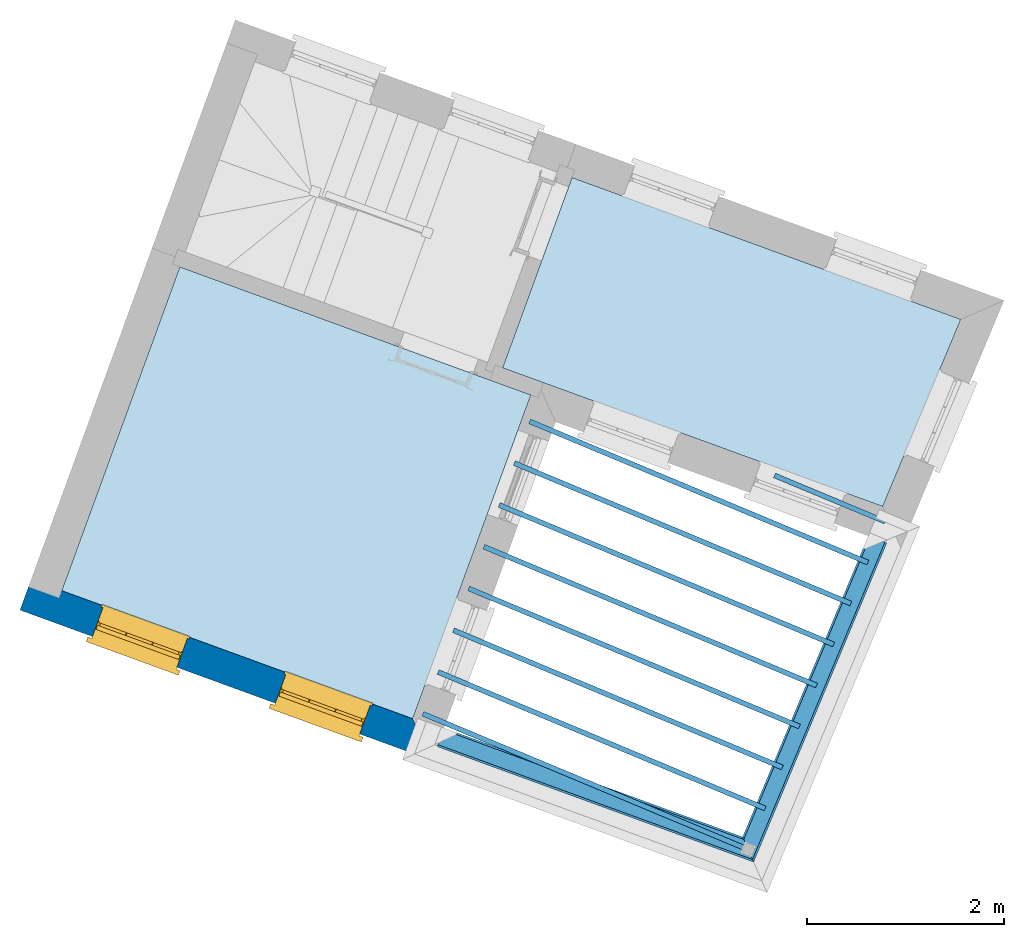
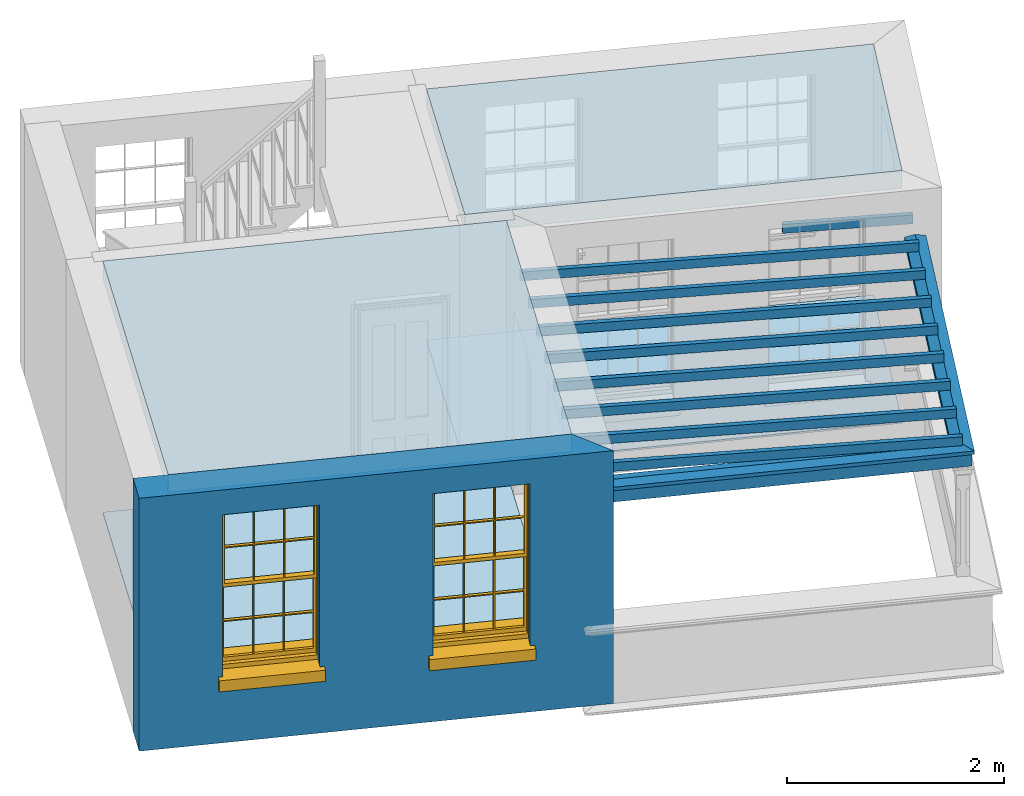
# One storey, part 1 of 7: 13 beams, 4 slabs, 2 windows, 1 wall, 2 openings.
"""IFC4 building model written with IfcOpenShell, lengths in metres."""

from ifc_helpers import new_model, si_unit, frame, origin, origin_with_axes, place, context, subcontext, project, spatial, polyline, outline, extrude, clip, halfspace, faceted_brep, source, transform, mapped, material, layer, layer_set, layer_usage, material_profile, profile_set, profile_usage, type_object, type_shapes, element, fill, save


model = new_model("IFC4")

# Units and contexts
model_context = context("Model", 3, world=origin_with_axes())
body_context = subcontext(model_context, "Body", "Model", "MODEL_VIEW")
ifc_project = project(units=[si_unit("PLANEANGLEUNIT", "RADIAN"), si_unit("MASSUNIT", "GRAM", prefix="KILO"), si_unit("FORCEUNIT", "NEWTON", prefix="KILO"), si_unit("LENGTHUNIT", "METRE"), si_unit("AREAUNIT", "SQUARE_METRE"), si_unit("VOLUMEUNIT", "CUBIC_METRE")], contexts=[model_context, model_context])

# Sites, building, storey
site_1_placement = place(None, origin_with_axes())
site_1 = spatial("IfcSite", under=ifc_project, at=site_1_placement, Name="Tamar")
site_2_placement = place(site_1_placement, origin_with_axes())
site_2 = spatial("IfcSite", under=site_1, at=site_2_placement, Name="Site plot-13", CompositionType="ELEMENT")
building_placement = place(None, origin_with_axes())
building = spatial("IfcBuilding", under=site_2, at=building_placement, Name="Building plot-13", CompositionType="ELEMENT")
storey_placement = place(None, frame((0.0, 0.0, 29.0), z_axis=(0.0, 0.0, 1.0), x_axis=(1.0, 0.0, 0.0)))
storey = spatial("IfcBuildingStorey", under=building, at=storey_placement, Name="plot-13 1", CompositionType="ELEMENT", Elevation=29.0)

# Beams
ifc_material_profile_1 = material_profile(None, outline(polyline([(-0.08, -0.7), (0.08, -0.7), (0.08, -0.56), (-0.08, -0.56), (-0.08, -0.7)])))
ifc_profile_set_1 = profile_set([ifc_material_profile_1])
ifc_profile_usage_1 = profile_usage(ifc_profile_set_1)
beam_type_1 = type_object("IfcBeamType", Name="pergola beam_0", PredefinedType="NOTDEFINED", material=ifc_profile_set_1)
beam_1_placement = place(storey_placement, frame((249.278221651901, 295.746625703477, 2.85), z_axis=(-0.939432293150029, 0.342734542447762, 0.0), x_axis=(-0.342734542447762, -0.939432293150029, 0.0)))
element("IfcBeam", 1, at=beam_1_placement, inside=storey, type_object=beam_type_1, material=ifc_profile_usage_1, Name="pergola beam_0", context=body_context, shape_type="Clipping", body=[
    clip(clip(extrude(outline(polyline([(-0.08, -0.7), (0.08, -0.7), (0.08, -0.56), (-0.08, -0.56), (-0.08, -0.7)])), origin_with_axes(), (0.0, 0.0, 1.0), 5.31635716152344), halfspace(frame((0.0, 0.0, 4.31635716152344), z_axis=(3.49148133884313e-15, 0.0, -1.0), x_axis=(0.0, 1.0, 0.0)), True)), halfspace(frame((0.0, 0.0, 1.0), z_axis=(-0.69082229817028, 0.0, -0.723024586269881), x_axis=(0.0, 1.0, 0.0)), False)),
])
ifc_profile_usage_2 = profile_usage(ifc_profile_set_1)
beam_2_placement = place(storey_placement, frame((250.035489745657, 300.154798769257, 2.85), z_axis=(-0.385150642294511, -0.922853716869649, 0.0), x_axis=(0.922853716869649, -0.385150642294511, 0.0)))
element("IfcBeam", 2, at=beam_2_placement, inside=storey, type_object=beam_type_1, material=ifc_profile_usage_2, Name="pergola beam_0", context=body_context, shape_type="Clipping", body=[
    clip(clip(extrude(outline(polyline([(-0.08, -0.7), (0.08, -0.7), (0.08, -0.56), (-0.08, -0.56), (-0.08, -0.7)])), origin_with_axes(), (0.0, 0.0, 1.0), 5.40529029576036), halfspace(frame((0.0, 0.0, 4.40529029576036), z_axis=(0.690822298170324, 0.0, -0.723024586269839), x_axis=(0.0, 1.0, 0.0)), True)), halfspace(frame((0.0, 0.0, 1.0), z_axis=(-1.53823100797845e-14, 0.0, -1.0), x_axis=(0.0, 1.0, 0.0)), False)),
])
ifc_material_profile_2 = material_profile(None, outline(polyline([(0.0, -0.5), (-0.1, -0.52), (-0.1, -0.56), (0.1, -0.56), (0.1, -0.52), (0.0, -0.5)])))
ifc_profile_set_2 = profile_set([ifc_material_profile_2])
ifc_profile_usage_3 = profile_usage(ifc_profile_set_2)
beam_type_2 = type_object("IfcBeamType", Name="pergola beam_1", PredefinedType="NOTDEFINED", material=ifc_profile_set_2)
beam_3_placement = place(storey_placement, frame((249.278221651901, 295.746625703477, 2.85), z_axis=(-0.939432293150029, 0.342734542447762, 0.0), x_axis=(-0.342734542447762, -0.939432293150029, 0.0)))
element("IfcBeam", 3, at=beam_3_placement, inside=storey, type_object=beam_type_2, material=ifc_profile_usage_3, Name="pergola beam_1", context=body_context, shape_type="Clipping", body=[
    clip(clip(extrude(outline(polyline([(0.0, -0.5), (-0.1, -0.52), (-0.1, -0.56), (0.1, -0.56), (0.1, -0.52), (0.0, -0.5)])), origin_with_axes(), (0.0, 0.0, 1.0), 5.31635716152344), halfspace(frame((0.0, 0.0, 4.31635716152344), z_axis=(3.49148133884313e-15, 0.0, -1.0), x_axis=(0.0, 1.0, 0.0)), True)), halfspace(frame((0.0, 0.0, 1.0), z_axis=(-0.69082229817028, 0.0, -0.723024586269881), x_axis=(0.0, 1.0, 0.0)), False)),
])
ifc_profile_usage_4 = profile_usage(ifc_profile_set_2)
beam_4_placement = place(storey_placement, frame((250.035489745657, 300.154798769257, 2.85), z_axis=(-0.385150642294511, -0.922853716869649, 0.0), x_axis=(0.922853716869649, -0.385150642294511, 0.0)))
element("IfcBeam", 4, at=beam_4_placement, inside=storey, type_object=beam_type_2, material=ifc_profile_usage_4, Name="pergola beam_1", context=body_context, shape_type="Clipping", body=[
    clip(clip(extrude(outline(polyline([(0.0, -0.5), (-0.1, -0.52), (-0.1, -0.56), (0.1, -0.56), (0.1, -0.52), (0.0, -0.5)])), origin_with_axes(), (0.0, 0.0, 1.0), 5.40529029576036), halfspace(frame((0.0, 0.0, 4.40529029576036), z_axis=(0.690822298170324, 0.0, -0.723024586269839), x_axis=(0.0, 1.0, 0.0)), True)), halfspace(frame((0.0, 0.0, 1.0), z_axis=(-1.53823100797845e-14, 0.0, -1.0), x_axis=(0.0, 1.0, 0.0)), False)),
])
beam_5_placement = place(storey_placement, frame((248.329160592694, 296.066288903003, 2.35)))
element("IfcBeam", 5, at=beam_5_placement, inside=storey, Name="My Beam", ObjectType="Beam", context=body_context, shape_type="SweptSolid", body=[
    extrude(outline(polyline([(0.0, 0.0), (0.0192575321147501, 0.0461426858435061), (-3.27538493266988, 1.42115330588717), (-3.29464246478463, 1.37501062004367), (0.0, 0.0)])), origin_with_axes(), (0.0, 0.0, 1.0), 0.1),
])
beam_6_placement = place(storey_placement, frame((248.502478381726, 296.481573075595, 2.35)))
element("IfcBeam", 6, at=beam_6_placement, inside=storey, Name="My Beam", ObjectType="Beam", context=body_context, shape_type="SweptSolid", body=[
    extrude(outline(polyline([(0.0, 0.0), (0.0192575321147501, 0.0461426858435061), (-3.29431207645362, 1.4290525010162), (-3.31356960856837, 1.3829098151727), (0.0, 0.0)])), origin_with_axes(), (0.0, 0.0, 1.0), 0.1),
])
beam_7_placement = place(storey_placement, frame((248.675796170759, 296.896857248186, 2.35)))
element("IfcBeam", 7, at=beam_7_placement, inside=storey, Name="My Beam", ObjectType="Beam", context=body_context, shape_type="SweptSolid", body=[
    extrude(outline(polyline([(0.0, 0.0), (0.0192575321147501, 0.0461426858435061), (-3.31323922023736, 1.43695169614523), (-3.33249675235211, 1.39080901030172), (0.0, 0.0)])), origin_with_axes(), (0.0, 0.0, 1.0), 0.1),
])
beam_8_placement = place(storey_placement, frame((248.849113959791, 297.312141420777, 2.35)))
element("IfcBeam", 8, at=beam_8_placement, inside=storey, Name="My Beam", ObjectType="Beam", context=body_context, shape_type="SweptSolid", body=[
    extrude(outline(polyline([(0.0, 0.0), (0.0192575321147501, 0.0461426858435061), (-3.33216636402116, 1.44485089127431), (-3.35142389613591, 1.39870820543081), (0.0, 0.0)])), origin_with_axes(), (0.0, 0.0, 1.0), 0.1),
])
beam_9_placement = place(storey_placement, frame((249.022431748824, 297.727425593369, 2.35)))
element("IfcBeam", 9, at=beam_9_placement, inside=storey, Name="My Beam", ObjectType="Beam", context=body_context, shape_type="SweptSolid", body=[
    extrude(outline(polyline([(0.0, 0.0), (0.0192575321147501, 0.0461426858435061), (-3.35109350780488, 1.45275008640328), (-3.37035103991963, 1.40660740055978), (0.0, 0.0)])), origin_with_axes(), (0.0, 0.0, 1.0), 0.1),
])
beam_10_placement = place(storey_placement, frame((249.195749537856, 298.14270976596, 2.35)))
element("IfcBeam", 10, at=beam_10_placement, inside=storey, Name="My Beam", ObjectType="Beam", context=body_context, shape_type="SweptSolid", body=[
    extrude(outline(polyline([(0.0, 0.0), (0.0192575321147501, 0.0461426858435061), (-3.37002065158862, 1.46064928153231), (-3.38927818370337, 1.41450659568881), (0.0, 0.0)])), origin_with_axes(), (0.0, 0.0, 1.0), 0.1),
])
beam_11_placement = place(storey_placement, frame((249.369067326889, 298.557993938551, 2.35)))
element("IfcBeam", 11, at=beam_11_placement, inside=storey, Name="My Beam", ObjectType="Beam", context=body_context, shape_type="SweptSolid", body=[
    extrude(outline(polyline([(0.0, 0.0), (0.0192575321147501, 0.0461426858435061), (-3.38894779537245, 1.4685484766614), (-3.4082053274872, 1.42240579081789), (0.0, 0.0)])), origin_with_axes(), (0.0, 0.0, 1.0), 0.1),
])
beam_12_placement = place(storey_placement, frame((249.542385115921, 298.973278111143, 2.35)))
element("IfcBeam", 12, at=beam_12_placement, inside=storey, Name="My Beam", ObjectType="Beam", context=body_context, shape_type="SweptSolid", body=[
    extrude(outline(polyline([(0.0, 0.0), (0.0192575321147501, 0.0461426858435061), (-3.40787493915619, 1.47644767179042), (-3.42713247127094, 1.43030498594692), (0.0, 0.0)])), origin_with_axes(), (0.0, 0.0, 1.0), 0.1),
])
beam_13_placement = place(storey_placement, frame((249.715702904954, 299.388562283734, 2.35)))
element("IfcBeam", 13, at=beam_13_placement, inside=storey, Name="My Beam", ObjectType="Beam", context=body_context, shape_type="SweptSolid", body=[
    extrude(outline(polyline([(0.0, 0.0), (0.0192575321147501, 0.0461426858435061), (-1.10028881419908, 0.513382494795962), (-1.11954634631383, 0.467239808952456), (0.0, 0.0)])), origin_with_axes(), (0.0, 0.0, 1.0), 0.1),
])

# Slabs
slab_1_placement = place(storey_placement, frame((241.385160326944, 298.711421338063, 2.65)))
element("IfcSlab", 14, at=slab_1_placement, inside=storey, Name="My Slab", ObjectType="Slab", PredefinedType="FLOOR", context=body_context, shape_type="SweptSolid", body=[
    extrude(outline(polyline([(0.0, 0.0), (3.55554212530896, -1.29717395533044), (4.75219971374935, 1.98285371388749), (1.19665758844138, 3.28002766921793), (0.0, 0.0)])), origin_with_axes(), (0.0, 0.0, 1.0), 0.2),
])
slab_2_placement = place(storey_placement, frame((241.385160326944, 298.711421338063, 0.0)))
element("IfcSlab", 15, at=slab_2_placement, inside=storey, Name="My Slab", ObjectType="Slab", PredefinedType="FLOOR", context=body_context, shape_type="SweptSolid", body=[
    extrude(outline(polyline([(0.0, 0.0), (3.55554212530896, -1.29717395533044), (4.75219971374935, 1.98285371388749), (1.19665758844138, 3.28002766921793), (0.0, 0.0)])), origin_with_axes(), (0.0, 0.0, 1.0), 0.02),
])
slab_3_placement = place(storey_placement, frame((245.851318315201, 300.968947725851, 2.65)))
element("IfcSlab", 16, at=slab_3_placement, inside=storey, Name="My Slab", ObjectType="Slab", PredefinedType="FLOOR", context=body_context, shape_type="SweptSolid", body=[
    extrude(outline(polyline([(0.0, 0.0), (3.85091988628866, -1.40493708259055), (4.64220016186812, 0.491037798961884), (0.703407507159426, 1.92803364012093), (0.0, 0.0)])), origin_with_axes(), (0.0, 0.0, 1.0), 0.2),
])
slab_4_placement = place(storey_placement, frame((245.851318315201, 300.968947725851, 0.0)))
element("IfcSlab", 17, at=slab_4_placement, inside=storey, Name="My Slab", ObjectType="Slab", PredefinedType="FLOOR", context=body_context, shape_type="SweptSolid", body=[
    extrude(outline(polyline([(0.0, 0.0), (3.85091988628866, -1.40493708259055), (4.64220016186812, 0.491037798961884), (0.703407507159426, 1.92803364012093), (0.0, 0.0)])), origin_with_axes(), (0.0, 0.0, 1.0), 0.02),
])

# Wall, openings, windows
ifc_material = material(Name="Masonry")
ifc_layer = layer(ifc_material, 0.33, ventilated=False)
ifc_layer_set = layer_set([ifc_layer], Name="exterior_0.08_0.25")
ifc_layer_usage = layer_usage(ifc_layer_set, "AXIS2", "POSITIVE", -0.25)
wall_type = type_object("IfcWallType", Name="exterior_0.08_0.25", PredefinedType="SOLIDWALL", material=ifc_layer_set)
wall_placement = place(storey_placement, frame((241.282586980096, 298.663685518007, 0.0), z_axis=(0.0, 0.0, 1.0), x_axis=(0.939432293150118, -0.342734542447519, 0.0)))
wall = element("IfcWall", 18, at=wall_placement, inside=storey, type_object=wall_type, material=ifc_layer_usage, Name="exterior", context=body_context, shape_type="SweptSolid", body=[
    extrude(outline(polyline([(-0.249999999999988, 0.0799999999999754), (-0.250000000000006, -0.249999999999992), (4.1947774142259, -0.24999999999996), (3.86477741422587, 0.079999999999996), (-0.249999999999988, 0.0799999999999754)])), origin_with_axes(), (0.0, 0.0, 1.0), 2.85),
])
opening_1_placement = place(wall_placement, frame((0.531194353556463, 0.0, 0.75)))
opening_1 = element("IfcOpeningElement", 19, at=opening_1_placement, cuts=wall, Name="My Opening", ObjectType="Opening", context=body_context, shape_type="SweptSolid", body=[
    extrude(outline(polyline([(0.0, -0.269999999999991), (0.909999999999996, -0.269999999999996), (0.910000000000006, 1.1), (9.99200722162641e-15, 1.10000000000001), (0.0, -0.269999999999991)])), origin_with_axes(), (0.0, 0.0, 1.0), 1.82),
])
opening_2_placement = place(wall_placement, frame((2.50358306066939, 0.0, 0.75)))
opening_2 = element("IfcOpeningElement", 20, at=opening_2_placement, cuts=wall, Name="My Opening", ObjectType="Opening", context=body_context, shape_type="SweptSolid", body=[
    extrude(outline(polyline([(0.0, -0.270000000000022), (0.909999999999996, -0.270000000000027), (0.910000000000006, 1.09999999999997), (1.02140518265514e-14, 1.09999999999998), (0.0, -0.270000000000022)])), origin_with_axes(), (0.0, 0.0, 1.0), 1.82),
])
window_type = type_object("IfcWindowType", Name="sash_big", PartitioningType="DOUBLE_PANEL_HORIZONTAL", PredefinedType="NOTDEFINED")
shared_shape = source(origin(), body_context, "Body", "Brep", [
    faceted_brep([(0.033125, 0.145, 0.975209), (0.01, 0.145, 0.975209), (0.033125, 0.145, 1.376042), (0.876875, 0.145, 0.975209), (0.876875, 0.145, 1.376042), (0.9, 0.145, 0.975209), (0.876875, 0.145, 1.386042), (0.876875, 0.145, 1.786875), (0.9, 0.145, 1.81), (0.033125, 0.145, 1.786875), (0.033125, 0.145, 1.386042), (0.01, 0.145, 1.81), (0.876875, 0.115, 1.376042), (0.876875, 0.115, 0.975209), (0.9, 0.115, 0.937083), (0.033125, 0.115, 1.786875), (0.01, 0.115, 1.81), (0.033125, 0.115, 1.386042), (0.01, 0.115, 0.937083), (0.033125, 0.115, 0.975209), (0.033125, 0.115, 1.376042), (0.876875, 0.115, 1.786875), (0.876875, 0.115, 1.386042), (0.9, 0.115, 1.81), (0.033125, 0.145, 0.937083), (0.01, 0.145, 0.937083), (0.033125, 0.145, 0.53625), (0.876875, 0.145, 0.937083), (0.876875, 0.145, 0.53625), (0.9, 0.145, 0.937083), (0.876875, 0.145, 0.52625), (0.876875, 0.145, 0.125417), (0.9, 0.145, 0.077167), (0.033125, 0.145, 0.125417), (0.033125, 0.145, 0.52625), (0.01, 0.145, 0.077167), (-0.0425, 0.0, 0.01), (-0.0425, -0.05, 0.001667), (0.0, 0.0, 0.01), (0.9525, 0.0, 0.01), (0.91, 0.0, 0.01), (0.9525, -0.05, 0.001667), (-0.02, 0.33, 0.077167), (0.0, 0.33, 0.077167), (-0.02, 0.36, 0.077167), (0.0, 0.19, 0.077167), (0.01, 0.19, 0.077167), (0.91, 0.19, 0.077167), (0.91, 0.33, 0.077167), (0.9, 0.19, 0.077167), (0.93, 0.33, 0.077167), (0.93, 0.36, 0.077167), (0.01, 0.175, 0.975209), (0.9, 0.175, 0.975209), (0.876875, 0.175, 0.125417), (0.876875, 0.175, 0.52625), (0.9, 0.175, 0.077167), (0.876875, 0.175, 0.53625), (0.876875, 0.175, 0.937083), (0.033125, 0.175, 0.125417), (0.01, 0.175, 0.077167), (0.033125, 0.175, 0.52625), (0.033125, 0.175, 0.937083), (0.033125, 0.175, 0.53625), (-0.02, 0.33, 0.052167), (-0.02, 0.36, 0.052167), (0.93, 0.36, 0.052167), (0.93, 0.33, 0.052167), (0.91, 0.33, 0.052167), (0.0, 0.33, 0.052167), (0.91, 0.1, 0.026667), (0.0, 0.1, 0.026667), (-0.0425, -0.05, -0.123333), (0.9525, -0.05, -0.123333), (-0.0425, 0.0, -0.123333), (0.9525, 0.0, -0.123333), (0.01, 0.19, 1.81), (0.9, 0.19, 1.81), (0.0, 0.19, 1.82), (0.91, 0.19, 1.82), (0.01, 0.1, 0.077167), (0.9, 0.1, 0.077167), (0.592292, 0.145, 0.125417), (0.592292, 0.175, 0.125417), (0.317708, 0.175, 0.125417), (0.317708, 0.145, 0.125417), (0.592292, 0.145, 0.53625), (0.317708, 0.145, 0.53625), (0.317708, 0.145, 0.52625), (0.592292, 0.145, 0.52625), (0.592292, 0.175, 0.53625), (0.317708, 0.175, 0.53625), (0.592292, 0.115, 1.386042), (0.592292, 0.145, 1.386042), (0.317708, 0.145, 1.386042), (0.317708, 0.115, 1.386042), (0.317708, 0.115, 1.376042), (0.592292, 0.115, 1.376042), (0.317708, 0.145, 1.376042), (0.592292, 0.145, 1.376042), (0.602292, 0.115, 1.376042), (0.592292, 0.115, 0.975209), (0.602292, 0.115, 0.975209), (0.602292, 0.145, 0.975209), (0.592292, 0.145, 0.975209), (0.602292, 0.145, 1.376042), (0.602292, 0.175, 0.53625), (0.602292, 0.145, 0.53625), (0.317708, 0.175, 0.52625), (0.307708, 0.175, 0.125417), (0.307708, 0.175, 0.52625), (0.602292, 0.175, 0.52625), (0.602292, 0.175, 0.125417), (0.592292, 0.175, 0.52625), (0.307708, 0.175, 0.53625), (0.317708, 0.175, 0.937083), (0.307708, 0.175, 0.937083), (0.602292, 0.175, 0.937083), (0.592292, 0.175, 0.937083), (0.307708, 0.145, 0.52625), (0.307708, 0.145, 0.125417), (0.307708, 0.145, 0.53625), (0.307708, 0.145, 0.937083), (0.592292, 0.145, 0.937083), (0.317708, 0.145, 0.937083), (0.602292, 0.145, 0.937083), (0.602292, 0.145, 0.52625), (0.602292, 0.145, 0.125417), (0.307708, 0.115, 1.386042), (0.307708, 0.115, 1.376042), (0.307708, 0.115, 0.975209), (0.317708, 0.115, 0.975209), (0.317708, 0.115, 1.786875), (0.307708, 0.115, 1.786875), (0.602292, 0.115, 1.786875), (0.592292, 0.115, 1.786875), (0.602292, 0.115, 1.386042), (0.602292, 0.145, 1.386042), (0.307708, 0.145, 1.386042), (0.307708, 0.145, 1.786875), (0.317708, 0.145, 1.786875), (0.592292, 0.145, 1.786875), (0.602292, 0.145, 1.786875), (0.307708, 0.145, 1.376042), (0.317708, 0.145, 0.975209), (0.307708, 0.145, 0.975209), (0.91, 0.1, 1.82), (0.9, 0.1, 1.81), (0.01, 0.1, 1.81), (0.0, 0.1, 1.82), (0.91, 0.0, 0.0), (0.0, 0.0, 0.0), (0.91, 0.33, 0.0), (0.0, 0.33, 0.0)], [[[0, 1, 2]], [[3, 4, 5]], [[6, 7, 8]], [[9, 10, 11]], [[12, 13, 14]], [[15, 16, 17]], [[18, 19, 20]], [[21, 22, 23]], [[24, 25, 26]], [[27, 28, 29]], [[30, 31, 32]], [[33, 34, 35]], [[14, 27, 29]], [[25, 24, 18]], [[36, 37, 38]], [[39, 40, 41]], [[42, 43, 44]], [[45, 46, 43]], [[47, 48, 49]], [[50, 51, 48]], [[1, 0, 52]], [[5, 53, 3]], [[54, 55, 56]], [[57, 58, 53]], [[59, 60, 61]], [[62, 63, 52]], [[48, 43, 46, 49]], [[51, 44, 43, 48]], [[64, 42, 44, 65]], [[65, 44, 51, 66]], [[66, 51, 50, 67]], [[65, 66, 68, 69]], [[60, 56, 49, 46]], [[70, 71, 38, 40]], [[37, 41, 40, 38]], [[37, 72, 73, 41]], [[74, 75, 73, 72]], [[8, 11, 76, 77]], [[76, 78, 79, 77]], [[32, 35, 80, 81]], [[81, 80, 71, 70]], [[82, 83, 84, 85]], [[86, 87, 88, 89]], [[86, 90, 91, 87]], [[92, 93, 94, 95]], [[92, 95, 96, 97]], [[96, 98, 99, 97]], [[100, 97, 101, 102]], [[103, 104, 99, 105]], [[97, 99, 104, 101]], [[102, 103, 105, 100]], [[28, 57, 106, 107]], [[108, 84, 109, 110]], [[111, 112, 83, 113]], [[114, 110, 61, 63]], [[90, 113, 108, 91]], [[115, 91, 114, 116]], [[117, 106, 90, 118]], [[111, 106, 57, 55]], [[119, 110, 109, 120]], [[34, 61, 110, 119]], [[89, 113, 83, 82]], [[88, 108, 113, 89]], [[85, 84, 108, 88]], [[121, 114, 63, 26]], [[122, 116, 114, 121]], [[123, 118, 90, 86]], [[87, 91, 115, 124]], [[107, 106, 117, 125]], [[126, 111, 55, 30]], [[127, 112, 111, 126]], [[126, 30, 28, 107]], [[88, 119, 120, 85]], [[126, 89, 82, 127]], [[125, 123, 86, 107]], [[121, 26, 34, 119]], [[124, 122, 121, 87]], [[128, 17, 20, 129]], [[96, 129, 130, 131]], [[132, 133, 128, 95]], [[134, 135, 92, 136]], [[100, 12, 22, 136]], [[137, 6, 4, 105]], [[94, 138, 139, 140]], [[137, 93, 141, 142]], [[99, 98, 94, 93]], [[143, 2, 10, 138]], [[144, 145, 143, 98]], [[129, 143, 145, 130]], [[20, 2, 143, 129]], [[131, 144, 98, 96]], [[128, 138, 10, 17]], [[133, 139, 138, 128]], [[135, 141, 93, 92]], [[95, 94, 140, 132]], [[22, 6, 137, 136]], [[136, 137, 142, 134]], [[100, 105, 4, 12]], [[107, 86, 89, 126]], [[106, 111, 113, 90]], [[91, 108, 110, 114]], [[87, 121, 119, 88]], [[97, 100, 136, 92]], [[129, 96, 95, 128]], [[98, 143, 138, 94]], [[105, 99, 93, 137]], [[131, 101, 104, 144]], [[124, 115, 118, 123]], [[132, 140, 141, 135]], [[120, 109, 59, 33]], [[15, 9, 139, 133]], [[134, 142, 7, 21]], [[31, 54, 112, 127]], [[36, 74, 72, 37]], [[39, 41, 73, 75]], [[18, 14, 101, 131]], [[23, 16, 132, 135]], [[83, 56, 60, 84]], [[52, 53, 118, 115]], [[53, 52, 144, 104]], [[11, 8, 141, 140]], [[14, 18, 124, 123]], [[2, 1, 11, 10]], [[8, 5, 4, 6]], [[57, 53, 56, 55]], [[60, 52, 63, 61]], [[26, 25, 35, 34]], [[32, 29, 28, 30]], [[14, 23, 22, 12]], [[18, 20, 17, 16]], [[19, 0, 2, 20]], [[17, 10, 9, 15]], [[12, 4, 3, 13]], [[21, 7, 6, 22]], [[27, 58, 57, 28]], [[30, 55, 54, 31]], [[33, 59, 61, 34]], [[26, 63, 62, 24]], [[5, 8, 77, 53]], [[76, 11, 1, 52]], [[46, 45, 78, 76]], [[49, 77, 79, 47]], [[70, 146, 147, 81]], [[71, 80, 148, 149]], [[19, 130, 145, 0]], [[102, 13, 3, 103]], [[116, 122, 24, 62]], [[29, 32, 81, 14]], [[80, 35, 25, 18]], [[60, 46, 76, 52]], [[77, 49, 56, 53]], [[23, 14, 81, 147]], [[16, 148, 80, 18]], [[35, 85, 120]], [[120, 33, 35]], [[127, 82, 32]], [[32, 31, 127]], [[32, 82, 85, 35]], [[102, 101, 14]], [[14, 13, 102]], [[18, 131, 130]], [[130, 19, 18]], [[134, 21, 23]], [[23, 135, 134]], [[16, 15, 133]], [[133, 132, 16]], [[11, 140, 139]], [[139, 9, 11]], [[142, 141, 8]], [[8, 7, 142]], [[23, 147, 148, 16]], [[146, 149, 148, 147]], [[52, 115, 116]], [[116, 62, 52]], [[118, 53, 117]], [[58, 117, 53]], [[27, 125, 117, 58]], [[56, 83, 112]], [[112, 54, 56]], [[109, 84, 60]], [[60, 59, 109]], [[125, 27, 14]], [[14, 123, 125]], [[122, 124, 18]], [[18, 24, 122]], [[145, 144, 52]], [[52, 0, 145]], [[103, 3, 53]], [[53, 104, 103]], [[79, 78, 149, 146]], [[78, 45, 71, 149]], [[146, 70, 47, 79]], [[150, 75, 74, 151]], [[68, 66, 67]], [[48, 68, 67, 50]], [[69, 64, 65]], [[42, 64, 69, 43]], [[69, 68, 152, 153]], [[70, 68, 48, 47]], [[150, 152, 68, 70]], [[43, 69, 71, 45]], [[69, 153, 151, 71]], [[152, 150, 151, 153]], [[38, 151, 74, 36]], [[71, 151, 38]], [[39, 75, 150, 40]], [[40, 150, 70]]]),
])
type_shapes(window_type, [shared_shape])
window_1_placement = place(storey_placement, frame((241.689069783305, 298.22798014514, 0.75), z_axis=(0.0, 0.0, 1.0), x_axis=(0.854883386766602, -0.311888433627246, 0.0)))
window_1 = element("IfcWindow", 21, at=window_1_placement, inside=storey, type_object=window_type, Name="bedroom outside window", OverallHeight=1.82, OverallWidth=0.91, context=body_context, shape_type="MappedRepresentation", body=[
    mapped(shared_shape, transform((0.0, 0.0, 0.0), scale=1.0)),
])
fill(opening_1, window_1)
window_2_placement = place(storey_placement, frame((243.541995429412, 297.551974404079, 0.75), z_axis=(0.0, 0.0, 1.0), x_axis=(0.854883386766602, -0.311888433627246, 0.0)))
window_2 = element("IfcWindow", 22, at=window_2_placement, inside=storey, type_object=window_type, Name="bedroom outside window", OverallHeight=1.82, OverallWidth=0.91, context=body_context, shape_type="MappedRepresentation", body=[
    mapped(shared_shape, transform((0.0, 0.0, 0.0), scale=1.0)),
])
fill(opening_2, window_2)

save(model, "model.ifc")
